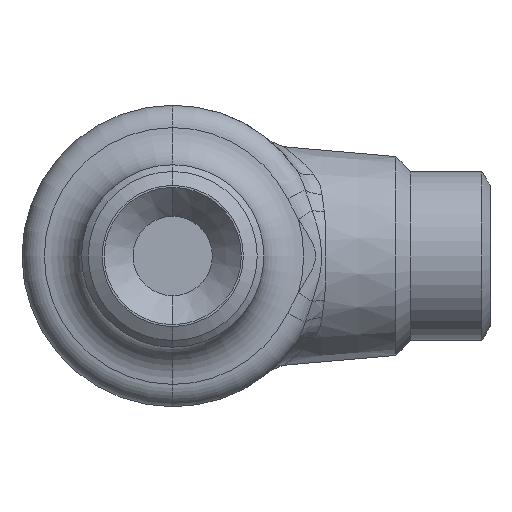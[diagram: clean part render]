
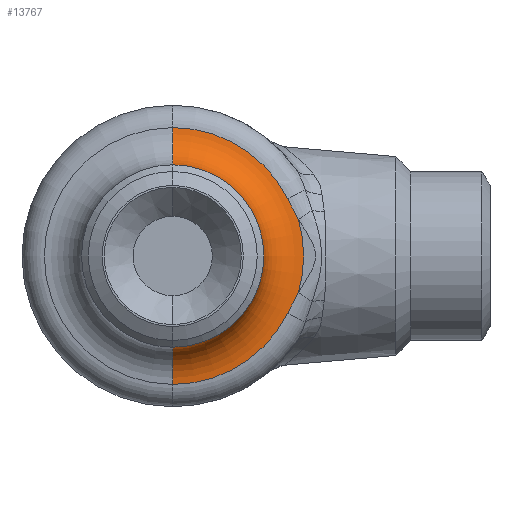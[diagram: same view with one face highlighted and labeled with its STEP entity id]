
A CAD part, front view. The second image highlights one B-rep face of the part: STEP entity #13767.
In plain terms, the highlighted toroidal (fillet/blend) face has major radius 16.5 mm and minor radius 5 mm.
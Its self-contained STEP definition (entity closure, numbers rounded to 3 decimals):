
#16500 = ORIENTED_EDGE ( 'NONE', *, *, #6555, .F. ) ;
#17252 = ORIENTED_EDGE ( 'NONE', *, *, #9521, .T. ) ;
#939 = VERTEX_POINT ( 'NONE', #20001 ) ;
#17544 = CIRCLE ( 'NONE', #17545, 5. ) ;
#17545 = AXIS2_PLACEMENT_3D ( 'NONE', #17546, #17547, #17565 ) ;
#17546 = CARTESIAN_POINT ( 'NONE',  ( 0., -57., 16.5 ) ) ;
#17547 = DIRECTION ( 'NONE',  ( -1., 0., 0. ) ) ;
#17565 = DIRECTION ( 'NONE',  ( 0., 0., 1. ) ) ;
#1791 = CARTESIAN_POINT ( 'NONE',  ( 0., -57., 11.5 ) ) ;
#18515 = CIRCLE ( 'NONE', #18516, 11.5 ) ;
#18516 = AXIS2_PLACEMENT_3D ( 'NONE', #18517, #18518, #18519 ) ;
#18517 = CARTESIAN_POINT ( 'NONE',  ( 0., -57., 0. ) ) ;
#18518 = DIRECTION ( 'NONE',  ( 0., -1., 0. ) ) ;
#18519 = DIRECTION ( 'NONE',  ( 0., 0., 1. ) ) ;
#18646 = CARTESIAN_POINT ( 'NONE',  ( 0., -52.01, 16.187 ) ) ;
#18723 = EDGE_CURVE ( 'NONE', #8541, #11556, #18515, .T. ) ;
#18893 = VERTEX_POINT ( 'NONE', #18646 ) ;
#18994 = ORIENTED_EDGE ( 'NONE', *, *, #4431, .F. ) ;
#19436 = ORIENTED_EDGE ( 'NONE', *, *, #14115, .T. ) ;
#19815 = CARTESIAN_POINT ( 'NONE',  ( 0., -52.01, -16.187 ) ) ;
#20001 = CARTESIAN_POINT ( 'NONE',  ( 14.484, -52.01, 7.229 ) ) ;
#20081 = B_SPLINE_CURVE_WITH_KNOTS ( 'NONE', 3,
 ( #20082, #20083, #20084, #20088 ),
 .UNSPECIFIED., .F., .F.,
 ( 4, 4 ),
 ( 0.013, 0.016 ),
 .UNSPECIFIED. ) ;
#20082 = CARTESIAN_POINT ( 'NONE',  ( 15.848, -52., 4.594 ) ) ;
#20083 = CARTESIAN_POINT ( 'NONE',  ( 15.397, -52., 5.474 ) ) ;
#20084 = CARTESIAN_POINT ( 'NONE',  ( 14.925, -52.01, 6.344 ) ) ;
#20088 = CARTESIAN_POINT ( 'NONE',  ( 14.484, -52.01, 7.229 ) ) ;
#20101 = CIRCLE ( 'NONE', #20102, 16.188 ) ;
#20102 = AXIS2_PLACEMENT_3D ( 'NONE', #20103, #20105, #20106 ) ;
#20103 = CARTESIAN_POINT ( 'NONE',  ( 0., -52.01, 0. ) ) ;
#20104 = VERTEX_POINT ( 'NONE', #6098 ) ;
#20105 = DIRECTION ( 'NONE',  ( 0., -1., 0. ) ) ;
#20106 = DIRECTION ( 'NONE',  ( 0., 0., -1. ) ) ;
#4423 = CARTESIAN_POINT ( 'NONE',  ( 0., -57., -11.5 ) ) ;
#4431 = EDGE_CURVE ( 'NONE', #15595, #20104, #5910, .T. ) ;
#4992 = CARTESIAN_POINT ( 'NONE',  ( 14.484, -52.01, -7.229 ) ) ;
#5910 = CIRCLE ( 'NONE', #5911, 16.5 ) ;
#5911 = AXIS2_PLACEMENT_3D ( 'NONE', #5912, #5913, #5914 ) ;
#5912 = CARTESIAN_POINT ( 'NONE',  ( 0., -52., 0. ) ) ;
#5913 = DIRECTION ( 'NONE',  ( 0., 1., 0. ) ) ;
#5914 = DIRECTION ( 'NONE',  ( 0., 0., 1. ) ) ;
#5915 = FACE_OUTER_BOUND ( 'NONE', #9225, .T. ) ;
#5916 = TOROIDAL_SURFACE ( 'NONE', #5917, 16.5, 5. ) ;
#5917 = AXIS2_PLACEMENT_3D ( 'NONE', #5918, #5919, #5920 ) ;
#5918 = CARTESIAN_POINT ( 'NONE',  ( 0., -57., 0. ) ) ;
#5919 = DIRECTION ( 'NONE',  ( 0., 1., 0. ) ) ;
#5920 = DIRECTION ( 'NONE',  ( 0., 0., 1. ) ) ;
#5988 = EDGE_CURVE ( 'NONE', #8814, #20104, #7503, .T. ) ;
#6077 = ORIENTED_EDGE ( 'NONE', *, *, #5988, .T. ) ;
#6098 = CARTESIAN_POINT ( 'NONE',  ( 15.848, -52., -4.594 ) ) ;
#6234 = CIRCLE ( 'NONE', #6235, 16.188 ) ;
#6235 = AXIS2_PLACEMENT_3D ( 'NONE', #6236, #6237, #6238 ) ;
#6236 = CARTESIAN_POINT ( 'NONE',  ( 0., -52.01, 0. ) ) ;
#6237 = DIRECTION ( 'NONE',  ( 0., -1., 0. ) ) ;
#6238 = DIRECTION ( 'NONE',  ( 0., 0., -1. ) ) ;
#6555 = EDGE_CURVE ( 'NONE', #10033, #8541, #7979, .T. ) ;
#7503 = B_SPLINE_CURVE_WITH_KNOTS ( 'NONE', 3,
 ( #7504, #7505, #7506, #7508 ),
 .UNSPECIFIED., .F., .F.,
 ( 4, 4 ),
 ( 0., 0.003 ),
 .UNSPECIFIED. ) ;
#7504 = CARTESIAN_POINT ( 'NONE',  ( 14.484, -52.01, -7.229 ) ) ;
#7505 = CARTESIAN_POINT ( 'NONE',  ( 14.925, -52.01, -6.344 ) ) ;
#7506 = CARTESIAN_POINT ( 'NONE',  ( 15.397, -52., -5.474 ) ) ;
#7508 = CARTESIAN_POINT ( 'NONE',  ( 15.848, -52., -4.594 ) ) ;
#7812 = CARTESIAN_POINT ( 'NONE',  ( 15.848, -52., 4.594 ) ) ;
#7979 = CIRCLE ( 'NONE', #7980, 5. ) ;
#7980 = AXIS2_PLACEMENT_3D ( 'NONE', #7981, #7985, #7986 ) ;
#7981 = CARTESIAN_POINT ( 'NONE',  ( 0., -57., -16.5 ) ) ;
#7985 = DIRECTION ( 'NONE',  ( 1., 0., 0. ) ) ;
#7986 = DIRECTION ( 'NONE',  ( 0., 0., -1. ) ) ;
#8541 = VERTEX_POINT ( 'NONE', #4423 ) ;
#8814 = VERTEX_POINT ( 'NONE', #4992 ) ;
#9225 = EDGE_LOOP ( 'NONE', ( #16500, #19436, #6077, #18994, #10475, #15264, #17252, #13245 ) ) ;
#9521 = EDGE_CURVE ( 'NONE', #18893, #11556, #17544, .T. ) ;
#10033 = VERTEX_POINT ( 'NONE', #19815 ) ;
#10383 = EDGE_CURVE ( 'NONE', #15595, #939, #20081, .T. ) ;
#10420 = EDGE_CURVE ( 'NONE', #939, #18893, #20101, .T. ) ;
#10475 = ORIENTED_EDGE ( 'NONE', *, *, #10383, .T. ) ;
#11556 = VERTEX_POINT ( 'NONE', #1791 ) ;
#13245 = ORIENTED_EDGE ( 'NONE', *, *, #18723, .F. ) ;
#13767 = ADVANCED_FACE ( 'NONE', ( #5915 ), #5916, .F. ) ;
#14115 = EDGE_CURVE ( 'NONE', #10033, #8814, #6234, .T. ) ;
#15264 = ORIENTED_EDGE ( 'NONE', *, *, #10420, .T. ) ;
#15595 = VERTEX_POINT ( 'NONE', #7812 ) ;
